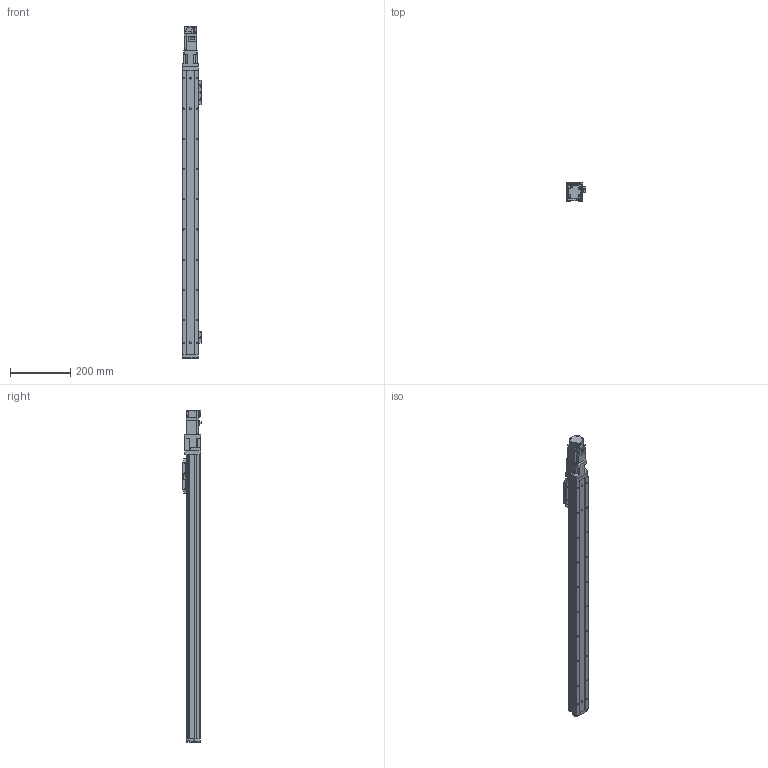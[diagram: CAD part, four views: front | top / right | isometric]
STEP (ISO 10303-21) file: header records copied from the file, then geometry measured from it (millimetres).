
FILE_DESCRIPTION (( 'STEP AP214' ), '1' );
FILE_NAME ('N_GRH5-800-BC-M10.step', '2025-03-14T09:34:26', ( '' ), ( '' ), 'SwSTEP 2.0', 'SolidWorks 2016', '' );
FILE_SCHEMA (( 'AUTOMOTIVE_DESIGN' ));
Length unit declared in the file: millimetre
Products named in the file (5): HF-KP13_100W_Motor^N_GRH5-800-BC-M10; N_GRH5-GY-004^N_GRH5-800-BC-M10; N_GRH5-GY-011^N_GRH5-800-BC-M10; N_GRH5-800-BC-M10; N_GRH5-BC-008^N_GRH5-800-BC-M10
Assembly tree (4 placements, depth 2):
  N_GRH5-800-BC-M10
    N_GRH5-GY-011^N_GRH5-800-BC-M10
    N_GRH5-GY-004^N_GRH5-800-BC-M10
    N_GRH5-BC-008^N_GRH5-800-BC-M10
    HF-KP13_100W_Motor^N_GRH5-800-BC-M10
Bounding box: 64.05 x 60.7 x 1097.9 mm (x, y, z)
Volume: 1705489.9 mm3; surface area: 463759.4 mm2
Topology: 4 solids, 5 shells, 964 faces, 2486 edges, 1583 vertices
Faces by surface type: plane 560, cylinder 344, cone 58, sphere 2
Entity records: 35950 total; most frequent: DIRECTION 5105, CARTESIAN_POINT 5076, ORIENTED_EDGE 4900, EDGE_CURVE 2450, AXIS2_PLACEMENT_3D 1702, LINE 1701, VECTOR 1701, VERTEX_POINT 1581
